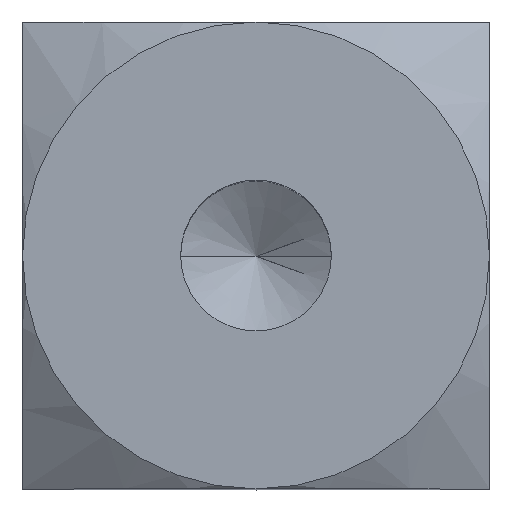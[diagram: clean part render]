
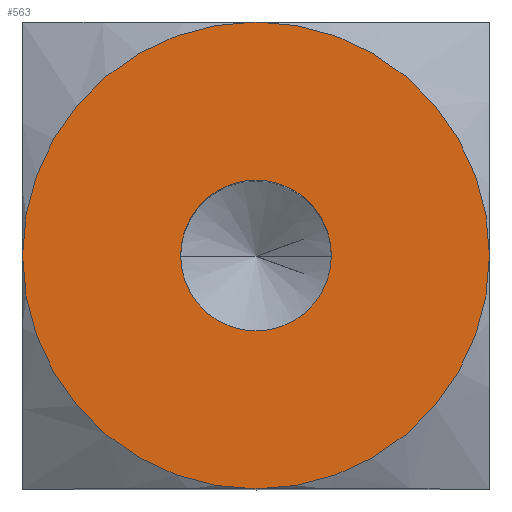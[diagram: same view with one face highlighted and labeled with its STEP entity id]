
A CAD part, top view. The second image highlights one B-rep face of the part: STEP entity #563.
In plain terms, the highlighted planar face has unit normal (0, 0, 1).
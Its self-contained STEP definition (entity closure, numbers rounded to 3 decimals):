
#6 = CARTESIAN_POINT ( 'NONE',  ( 0., 0., 17. ) ) ;
#14 = EDGE_LOOP ( 'NONE', ( #897, #841, #572, #544 ) ) ;
#43 = EDGE_CURVE ( 'NONE', #146, #181, #137, .T. ) ;
#64 = EDGE_CURVE ( 'NONE', #419, #104, #530, .T. ) ;
#66 = DIRECTION ( 'NONE',  ( -1., 0., 0. ) ) ;
#75 = DIRECTION ( 'NONE',  ( 0., 0., 1. ) ) ;
#101 = PLANE ( 'NONE',  #893 ) ;
#104 = VERTEX_POINT ( 'NONE', #261 ) ;
#112 = CARTESIAN_POINT ( 'NONE',  ( -6.5, 0., 17. ) ) ;
#137 = CIRCLE ( 'NONE', #849, 6.5 ) ;
#146 = VERTEX_POINT ( 'NONE', #112 ) ;
#147 = DIRECTION ( 'NONE',  ( 0., 0., 1. ) ) ;
#151 = CARTESIAN_POINT ( 'NONE',  ( 2.1, 0., 17. ) ) ;
#178 = DIRECTION ( 'NONE',  ( -1., 0., 0. ) ) ;
#181 = VERTEX_POINT ( 'NONE', #979 ) ;
#219 = AXIS2_PLACEMENT_3D ( 'NONE', #228, #147, #66 ) ;
#228 = CARTESIAN_POINT ( 'NONE',  ( 0., 0., 17. ) ) ;
#250 = DIRECTION ( 'NONE',  ( 0., 0., -1. ) ) ;
#251 = CARTESIAN_POINT ( 'NONE',  ( 0., 0., 17. ) ) ;
#261 = CARTESIAN_POINT ( 'NONE',  ( -2.1, 0., 17. ) ) ;
#283 = CARTESIAN_POINT ( 'NONE',  ( 0., 0., 17. ) ) ;
#332 = CIRCLE ( 'NONE', #607, 6.5 ) ;
#336 = CARTESIAN_POINT ( 'NONE',  ( 0., 0., 17. ) ) ;
#346 = DIRECTION ( 'NONE',  ( 0., 0., 1. ) ) ;
#362 = VERTEX_POINT ( 'NONE', #931 ) ;
#366 = DIRECTION ( 'NONE',  ( 1., 0., 0. ) ) ;
#376 = VERTEX_POINT ( 'NONE', #533 ) ;
#419 = VERTEX_POINT ( 'NONE', #151 ) ;
#438 = EDGE_CURVE ( 'NONE', #181, #362, #982, .T. ) ;
#444 = CIRCLE ( 'NONE', #556, 2.1 ) ;
#488 = FACE_BOUND ( 'NONE', #724, .T. ) ;
#530 = CIRCLE ( 'NONE', #932, 2.1 ) ;
#533 = CARTESIAN_POINT ( 'NONE',  ( 0., 6.5, 17. ) ) ;
#544 = ORIENTED_EDGE ( 'NONE', *, *, #891, .T. ) ;
#556 = AXIS2_PLACEMENT_3D ( 'NONE', #283, #602, #366 ) ;
#563 = ADVANCED_FACE ( 'NONE', ( #488, #722 ), #101, .F. ) ;
#570 = EDGE_CURVE ( 'NONE', #362, #376, #332, .T. ) ;
#572 = ORIENTED_EDGE ( 'NONE', *, *, #570, .T. ) ;
#602 = DIRECTION ( 'NONE',  ( 0., 0., 1. ) ) ;
#607 = AXIS2_PLACEMENT_3D ( 'NONE', #642, #728, #879 ) ;
#635 = EDGE_CURVE ( 'NONE', #104, #419, #444, .T. ) ;
#642 = CARTESIAN_POINT ( 'NONE',  ( 0., 0., 17. ) ) ;
#650 = CARTESIAN_POINT ( 'NONE',  ( 6.578, -6.578, 17. ) ) ;
#653 = DIRECTION ( 'NONE',  ( -1., 0., 0. ) ) ;
#711 = DIRECTION ( 'NONE',  ( 0., 0., 1. ) ) ;
#717 = DIRECTION ( 'NONE',  ( -1., 0., 0. ) ) ;
#722 = FACE_OUTER_BOUND ( 'NONE', #14, .T. ) ;
#724 = EDGE_LOOP ( 'NONE', ( #835, #965 ) ) ;
#728 = DIRECTION ( 'NONE',  ( 0., 0., 1. ) ) ;
#802 = DIRECTION ( 'NONE',  ( 1., 0., 0. ) ) ;
#835 = ORIENTED_EDGE ( 'NONE', *, *, #64, .F. ) ;
#841 = ORIENTED_EDGE ( 'NONE', *, *, #438, .T. ) ;
#849 = AXIS2_PLACEMENT_3D ( 'NONE', #251, #711, #717 ) ;
#879 = DIRECTION ( 'NONE',  ( -1., 0., 0. ) ) ;
#891 = EDGE_CURVE ( 'NONE', #376, #146, #970, .T. ) ;
#893 = AXIS2_PLACEMENT_3D ( 'NONE', #650, #250, #178 ) ;
#897 = ORIENTED_EDGE ( 'NONE', *, *, #43, .T. ) ;
#931 = CARTESIAN_POINT ( 'NONE',  ( 6.5, 0., 17. ) ) ;
#932 = AXIS2_PLACEMENT_3D ( 'NONE', #6, #75, #802 ) ;
#965 = ORIENTED_EDGE ( 'NONE', *, *, #635, .F. ) ;
#970 = CIRCLE ( 'NONE', #1021, 6.5 ) ;
#979 = CARTESIAN_POINT ( 'NONE',  ( 0., -6.5, 17. ) ) ;
#982 = CIRCLE ( 'NONE', #219, 6.5 ) ;
#1021 = AXIS2_PLACEMENT_3D ( 'NONE', #336, #346, #653 ) ;
